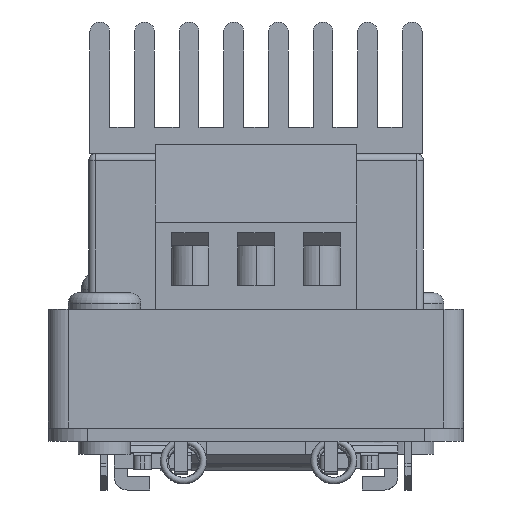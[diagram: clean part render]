
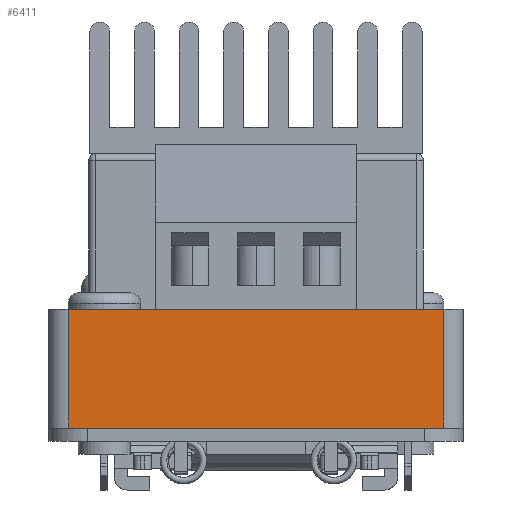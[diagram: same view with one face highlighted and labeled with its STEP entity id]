
A CAD part, left-side view. The second image highlights one B-rep face of the part: STEP entity #6411.
In plain terms, the highlighted planar face has unit normal (-1, 0, 0).
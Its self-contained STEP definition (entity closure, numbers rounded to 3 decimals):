
#1494=LINE('',#24995,#3101);
#1495=LINE('',#24998,#3102);
#1496=LINE('',#25000,#3103);
#1497=LINE('',#25002,#3104);
#3101=VECTOR('',#20770,1.);
#3102=VECTOR('',#20771,1.);
#3103=VECTOR('',#20772,1.);
#3104=VECTOR('',#20773,1.);
#4810=PLANE('',#17436);
#5572=FACE_OUTER_BOUND('',#7708,.T.);
#6411=ADVANCED_FACE('',(#5572),#4810,.F.);
#7708=EDGE_LOOP('',(#10970,#10971,#10972,#10973));
#10970=ORIENTED_EDGE('',*,*,#15160,.F.);
#10971=ORIENTED_EDGE('',*,*,#15161,.T.);
#10972=ORIENTED_EDGE('',*,*,#15162,.T.);
#10973=ORIENTED_EDGE('',*,*,#15163,.T.);
#13262=VERTEX_POINT('',#24996);
#13263=VERTEX_POINT('',#24997);
#13264=VERTEX_POINT('',#24999);
#13265=VERTEX_POINT('',#25001);
#15160=EDGE_CURVE('',#13262,#13263,#1494,.T.);
#15161=EDGE_CURVE('',#13262,#13264,#1495,.T.);
#15162=EDGE_CURVE('',#13264,#13265,#1496,.T.);
#15163=EDGE_CURVE('',#13265,#13263,#1497,.T.);
#17436=AXIS2_PLACEMENT_3D('',#25003,#20774,#20775);
#20770=DIRECTION('',(0.,-1.,0.));
#20771=DIRECTION('',(0.,0.,-1.));
#20772=DIRECTION('',(0.,-1.,0.));
#20773=DIRECTION('',(0.,0.,1.));
#20774=DIRECTION('',(1.,0.,0.));
#20775=DIRECTION('',(0.,-1.,0.));
#24995=CARTESIAN_POINT('',(-38.,-15.75,0.));
#24996=CARTESIAN_POINT('',(-38.,14.25,0.));
#24997=CARTESIAN_POINT('',(-38.,-14.25,0.));
#24998=CARTESIAN_POINT('',(-38.,14.25,0.));
#24999=CARTESIAN_POINT('',(-38.,14.25,-9.));
#25000=CARTESIAN_POINT('',(-38.,-15.75,-9.));
#25001=CARTESIAN_POINT('',(-38.,-14.25,-9.));
#25002=CARTESIAN_POINT('',(-38.,-14.25,0.));
#25003=CARTESIAN_POINT('',(-38.,-15.75,0.));
